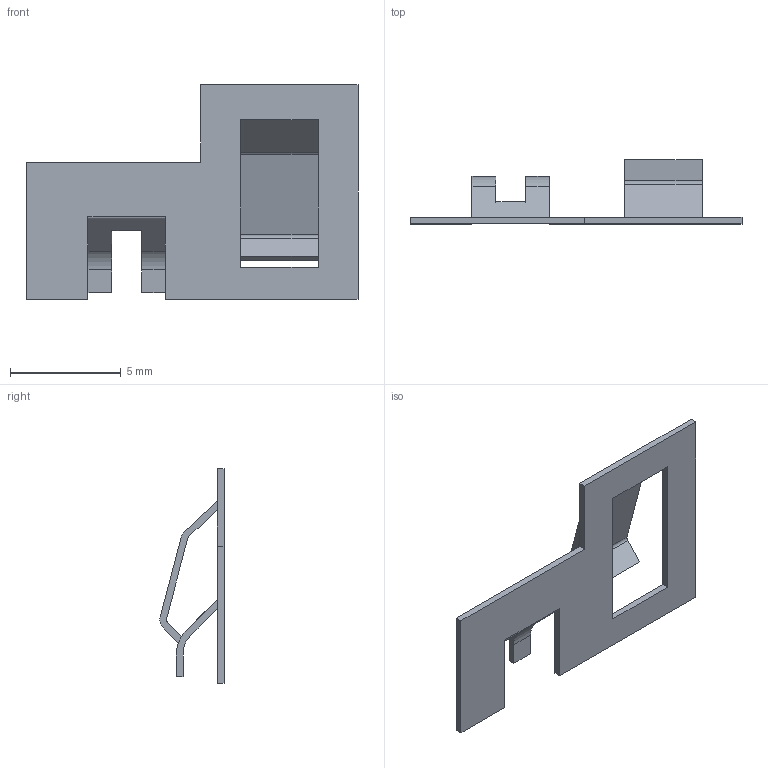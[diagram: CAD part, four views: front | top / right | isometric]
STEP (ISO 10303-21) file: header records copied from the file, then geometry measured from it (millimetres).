
FILE_DESCRIPTION (( 'STEP AP214' ), '1' );
FILE_NAME ('Terminales simetrico PP24.STEP', '2016-10-06T10:07:00', ( 'aaa' ), ( '' ), 'SwSTEP 2.0', 'SolidWorks 2013', '' );
FILE_SCHEMA (( 'AUTOMOTIVE_DESIGN' ));
Length unit declared in the file: millimetre
Products named in the file (1): Terminales simetrico PP24
Bounding box: 15 x 2.89 x 9.7 mm (x, y, z)
Volume: 35.3 mm3; surface area: 266.8 mm2
Topology: 1 solids, 1 shells, 45 faces, 125 edges, 82 vertices
Faces by surface type: plane 36, cylinder 9
Entity records: 1463 total; most frequent: CARTESIAN_POINT 253, ORIENTED_EDGE 250, DIRECTION 235, EDGE_CURVE 125, LINE 107, VECTOR 107, VERTEX_POINT 82, AXIS2_PLACEMENT_3D 64
